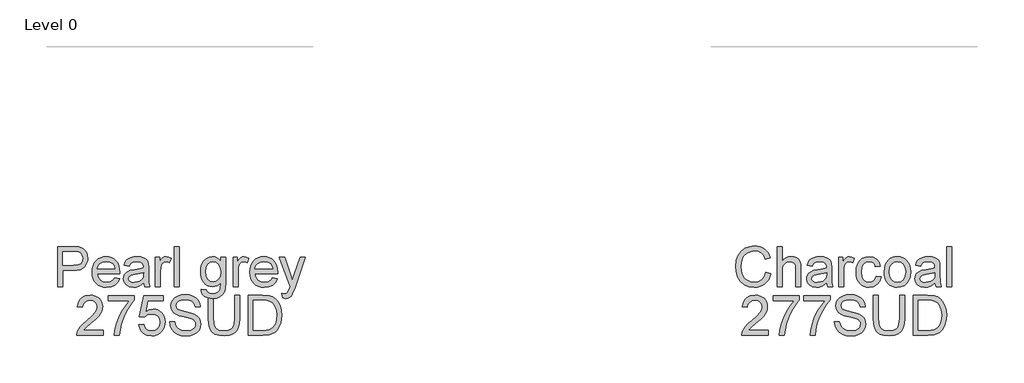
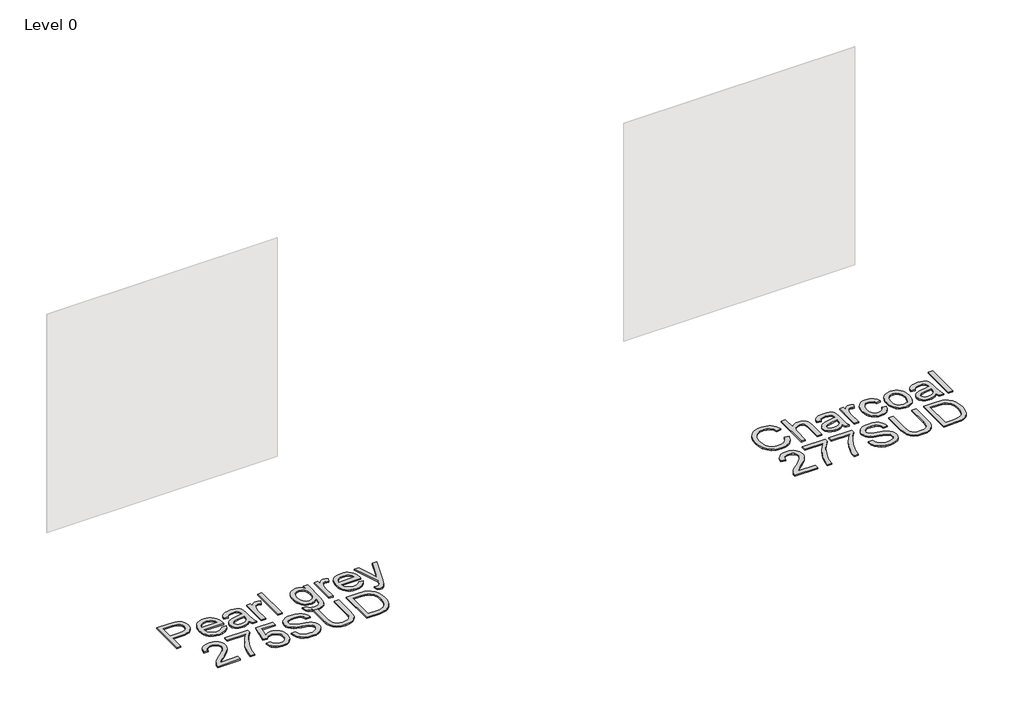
# One storey, part 5 of 37: 2 proxies.
"""IFC4 building model written with IfcOpenShell, lengths in millimetres."""

from ifc_helpers import new_model, si_unit, origin, origin_with_axes, place, context, project, spatial, polyline, outline, extrude, element, save

model = new_model("IFC4")

# Units and contexts
model_context = context("Model", 3, world=origin())
ifc_project = project(units=[si_unit("LENGTHUNIT", "METRE", prefix="MILLI")], contexts=[model_context])

# Site, building, storey
site = spatial("IfcSite", under=ifc_project)
building = spatial("IfcBuilding", under=site)
storey = spatial("IfcBuildingStorey", under=building, Name="Level 0", Elevation=0.0)

# Proxies
placement = place(None, origin())
element("IfcBuildingElementProxy", 1, Name="300mm Arial", ObjectType="300mm Arial", at=placement, inside=storey, context=model_context, shape_type="SweptSolid", body=[
    extrude(outline(polyline([(-10366.5370715, -36932.860494), (-10366.5370715, -36631.4915635), (-10254.8480978, -36631.4915635), (-10209.8193416, -36634.3610431), (-10189.7421817, -36639.7229232), (-10173.215083, -36648.4509235), (-10159.9069519, -36660.9405172), (-10149.4866943, -36677.5871775), (-10142.7544538, -36697.222879), (-10140.5103737, -36718.6795964), (-10142.0255876, -36737.1794622), (-10146.5712295, -36754.198603), (-10154.1472994, -36769.7370188), (-10164.7537971, -36783.7947095), (-10179.3150264, -36795.4473717), (-10198.7552905, -36803.7707019), (-10223.0745897, -36808.7647), (-10252.2729238, -36810.429366), (-10328.8659552, -36810.429366), (-10328.8659552, -36932.860494), (-10366.5370715, -36932.860494)]), holes=[polyline([(-10328.8659552, -36772.7582497), (-10250.0656318, -36772.7582497), (-10216.6619467, -36769.3001589), (-10194.589027, -36758.9258867), (-10182.2833742, -36742.2792264), (-10178.18149, -36720.0039716), (-10180.6003141, -36703.0813998), (-10187.8567864, -36688.8075784), (-10199.0495961, -36678.0654241), (-10213.2774323, -36671.7378538), (-10250.9485486, -36669.1626798), (-10328.8659552, -36669.1626798), (-10328.8659552, -36772.7582497)])]), origin_with_axes(), (0.0, 0.0, 1.0), 10.0),
    extrude(outline(polyline([(-9938.4695819, -36866.9360404), (-9901.5342296, -36871.64493), (-9914.8423608, -36899.4752029), (-9936.0783489, -36920.2789297), (-9964.7639475, -36933.2467701), (-10000.4209099, -36937.5693835), (-10023.7952122, -36935.7046817), (-10044.6219316, -36930.1105761), (-10062.9010683, -36920.7870668), (-10078.6326221, -36907.7341537), (-10091.2831642, -36891.3151204), (-10100.3192657, -36871.8932503), (-10105.7409266, -36849.4685435), (-10107.5481469, -36824.0409998), (-10105.7225325, -36797.7512327), (-10100.2456893, -36774.5792656), (-10091.1176173, -36754.5250983), (-10078.3383165, -36737.5887309), (-10062.6481494, -36724.133447), (-10044.7874785, -36714.5225298), (-10024.7563039, -36708.7559796), (-10002.5546255, -36706.8337961), (-9981.0680177, -36708.751381), (-9961.6369506, -36714.5041357), (-9944.2614241, -36724.0920602), (-9928.9414382, -36737.5151545), (-9916.4357497, -36754.4147337), (-9907.503115, -36774.4321128), (-9902.1435342, -36797.5672917), (-9900.3570072, -36823.8202706), (-9900.5777364, -36833.9738137), (-10069.8770306, -36833.9738137), (-10063.3563222, -36862.1719686), (-10048.2087811, -36882.902119), (-10026.3473935, -36895.6492302), (-9999.6851459, -36899.8982672), (-9979.6355772, -36897.9300985), (-9962.7497936, -36892.0255925), (-9949.0277952, -36881.8168672), (-9938.4695819, -36866.9360404)]), holes=[polyline([(-10069.8770306, -36796.3026974), (-9938.0281235, -36796.3026974), (-9943.1232892, -36776.4002814), (-9953.1112853, -36762.1632482), (-9975.0738404, -36748.9194964), (-10002.7017783, -36744.5049125), (-10028.094833, -36748.0273826), (-10049.0916979, -36758.5947929), (-10063.687416, -36775.0667092), (-10069.8770306, -36796.3026974)])]), origin_with_axes(), (0.0, 0.0, 1.0), 10.0),
    extrude(outline(polyline([(-9721.4192048, -36904.6071568), (-9739.4178314, -36920.0398064), (-9757.9498869, -36930.1381672), (-9777.4384356, -36935.7115794), (-9798.3065417, -36937.5693835), (-9829.7880435, -36933.0996173), (-9853.0105944, -36919.6903186), (-9867.3304011, -36899.3280501), (-9872.10367, -36873.9993748), (-9870.3010482, -36858.3827841), (-9864.8931829, -36844.2009331), (-9856.5514586, -36832.0608273), (-9845.9472601, -36822.5694718), (-9819.5701211, -36810.2086368), (-9786.9757763, -36804.5432541), (-9748.4585314, -36798.5835657), (-9721.639934, -36791.5938078), (-9721.4192048, -36783.2060983), (-9724.0127728, -36766.3938912), (-9731.793477, -36755.3942195), (-9749.1942954, -36747.2272392), (-9773.4377189, -36744.5049125), (-9795.8785206, -36746.3167313), (-9811.5502936, -36751.7521878), (-9822.2372655, -36761.8045633), (-9829.7236641, -36777.4671392), (-9867.3947804, -36772.7582497), (-9860.855678, -36752.156858), (-9851.0976081, -36735.9700502), (-9837.2100627, -36723.590821), (-9818.2825341, -36714.4121652), (-9795.1335595, -36708.7283884), (-9768.5816765, -36706.8337961), (-9743.1150454, -36708.5076592), (-9722.9275209, -36713.5292485), (-9707.7064034, -36721.0800264), (-9697.1389931, -36730.3414556), (-9690.1308411, -36741.7917827), (-9685.5874984, -36755.9092543), (-9683.7480885, -36788.8714811), (-9683.7480885, -36835.7396473), (-9681.8351021, -36901.1858542), (-9674.3303094, -36932.860494), (-9712.0014257, -36932.860494), (-9721.4192048, -36904.6071568)]), holes=[polyline([(-9721.4192048, -36829.2649241), (-9782.1933104, -36840.8164188), (-9814.6037141, -36846.9232599), (-9829.2822057, -36856.8560738), (-9834.4325537, -36871.3506244), (-9831.6274535, -36882.5526311), (-9823.2121528, -36891.7312869), (-9809.3705928, -36897.8565221), (-9790.2867143, -36899.8982672), (-9770.0532045, -36897.64499), (-9752.1741396, -36890.8851583), (-9737.6795889, -36880.9247533), (-9727.5996223, -36869.069756), (-9723.129856, -36856.8560738), (-9721.639934, -36839.933502), (-9721.4192048, -36829.2649241)])]), origin_with_axes(), (0.0, 0.0, 1.0), 10.0),
    extrude(outline(polyline([(-9631.9503035, -36932.860494), (-9631.9503035, -36711.5426857), (-9598.9880768, -36711.5426857), (-9598.9880768, -36744.2841833), (-9586.8111827, -36725.3014723), (-9575.5907819, -36714.1178596), (-9564.3335928, -36708.654812), (-9552.0463342, -36706.8337961), (-9533.2843524, -36709.7400639), (-9514.2280651, -36718.4588672), (-9526.8096293, -36752.2304343), (-9540.0533811, -36746.4362929), (-9553.297133, -36744.5049125), (-9564.545125, -36746.3627165), (-9574.5975005, -36751.9361288), (-9582.7184955, -36760.8020848), (-9588.1723461, -36772.5375205), (-9592.7524769, -36793.5803706), (-9594.2791872, -36816.5362071), (-9594.2791872, -36932.860494), (-9631.9503035, -36932.860494)])), origin_with_axes(), (0.0, 0.0, 1.0), 10.0),
    extrude(outline(polyline([(-9490.6836174, -36932.860494), (-9490.6836174, -36631.4915635), (-9453.0125011, -36631.4915635), (-9453.0125011, -36932.860494), (-9490.6836174, -36932.860494)])), origin_with_axes(), (0.0, 0.0, 1.0), 10.0),
    extrude(outline(polyline([(-9288.2013672, -36951.6960521), (-9250.5302509, -36956.4049417), (-9246.3731844, -36968.1771655), (-9238.3165687, -36976.2705694), (-9222.4792488, -36982.5613515), (-9201.7490984, -36984.6582789), (-9179.6393905, -36982.28544), (-9163.1950653, -36975.1669234), (-9151.7907234, -36963.7625816), (-9144.8009655, -36948.532267), (-9142.2257916, -36904.6071568), (-9154.7613705, -36916.9679918), (-9168.7500834, -36925.7971597), (-9184.1919302, -36931.0946604), (-9201.0869108, -36932.860494), (-9221.7411855, -36930.8049533), (-9239.9260524, -36924.6383314), (-9255.6415114, -36914.3606281), (-9268.8875625, -36899.9718436), (-9279.3974912, -36882.708981), (-9286.9045832, -36863.8090435), (-9291.4088384, -36843.2720311), (-9292.9102568, -36821.0979438), (-9290.2155212, -36790.6832999), (-9282.1313143, -36762.7150712), (-9268.9427448, -36739.0142737), (-9250.9349211, -36721.4019232), (-9228.7240457, -36710.4758279), (-9202.9263208, -36706.8337961), (-9185.3093717, -36708.8939353), (-9169.3203005, -36715.0743528), (-9154.9591071, -36725.3750487), (-9142.2257916, -36739.7960229), (-9142.2257916, -36711.5426857), (-9104.5546752, -36711.5426857), (-9104.5546752, -36902.620594), (-9107.1298492, -36946.7388422), (-9114.8553711, -36975.7923228), (-9128.1635023, -36995.0601423), (-9147.4865041, -37009.8214074), (-9172.4013122, -37019.2023982), (-9202.4848624, -37022.3293952), (-9237.5348195, -37017.9240083), (-9265.1351661, -37004.7078476), (-9275.5301318, -36994.7865301), (-9282.8394872, -36982.644125), (-9287.0632323, -36968.2806323), (-9288.2013672, -36951.6960521)]), holes=[polyline([(-9255.2391405, -36818.5227699), (-9251.2200297, -36853.0760863), (-9239.1626973, -36876.8320661), (-9221.035312, -36890.6000498), (-9198.8060424, -36895.1893777), (-9176.7423197, -36890.6276409), (-9158.5229639, -36876.9424307), (-9146.3000846, -36853.4899535), (-9142.2257916, -36819.6264159), (-9146.4196463, -36786.9676917), (-9159.0012105, -36763.4508352), (-9177.4872808, -36749.2413931), (-9199.3946536, -36744.5049125), (-9220.9065533, -36749.1678167), (-9238.9419681, -36763.1565296), (-9251.1648474, -36786.3238983), (-9255.2391405, -36818.5227699)])]), origin_with_axes(), (0.0, 0.0, 1.0), 10.0),
    extrude(outline(polyline([(-9048.0480008, -36932.860494), (-9048.0480008, -36711.5426857), (-9015.085774, -36711.5426857), (-9015.085774, -36744.2841833), (-9002.90888, -36725.3014723), (-8991.6884791, -36714.1178596), (-8980.4312901, -36708.654812), (-8968.1440314, -36706.8337961), (-8949.3820497, -36709.7400639), (-8930.3257623, -36718.4588672), (-8942.9073266, -36752.2304343), (-8956.1510784, -36746.4362929), (-8969.3948302, -36744.5049125), (-8980.6428222, -36746.3627165), (-8990.6951977, -36751.9361288), (-8998.8161928, -36760.8020848), (-9004.2700434, -36772.5375205), (-9008.8501742, -36793.5803706), (-9010.3768845, -36816.5362071), (-9010.3768845, -36932.860494), (-9048.0480008, -36932.860494)])), origin_with_axes(), (0.0, 0.0, 1.0), 10.0),
    extrude(outline(polyline([(-8751.8294183, -36866.9360404), (-8714.894066, -36871.64493), (-8728.2021971, -36899.4752029), (-8749.4381853, -36920.2789297), (-8778.1237839, -36933.2467701), (-8813.7807463, -36937.5693835), (-8837.1550485, -36935.7046817), (-8857.981768, -36930.1105761), (-8876.2609046, -36920.7870668), (-8891.9924584, -36907.7341537), (-8904.6430005, -36891.3151204), (-8913.679102, -36871.8932503), (-8919.100763, -36849.4685435), (-8920.9079833, -36824.0409998), (-8919.0823689, -36797.7512327), (-8913.6055256, -36774.5792656), (-8904.4774536, -36754.5250983), (-8891.6981528, -36737.5887309), (-8876.0079857, -36724.133447), (-8858.1473149, -36714.5225298), (-8838.1161402, -36708.7559796), (-8815.9144618, -36706.8337961), (-8794.427854, -36708.751381), (-8774.9967869, -36714.5041357), (-8757.6212604, -36724.0920602), (-8742.3012746, -36737.5151545), (-8729.795586, -36754.4147337), (-8720.8629513, -36774.4321128), (-8715.5033705, -36797.5672917), (-8713.7168436, -36823.8202706), (-8713.9375728, -36833.9738137), (-8883.2368669, -36833.9738137), (-8876.7161586, -36862.1719686), (-8861.5686174, -36882.902119), (-8839.7072299, -36895.6492302), (-8813.0449823, -36899.8982672), (-8792.9954135, -36897.9300985), (-8776.10963, -36892.0255925), (-8762.3876315, -36881.8168672), (-8751.8294183, -36866.9360404)]), holes=[polyline([(-8883.2368669, -36796.3026974), (-8751.3879599, -36796.3026974), (-8756.4831255, -36776.4002814), (-8766.4711217, -36762.1632482), (-8788.4336768, -36748.9194964), (-8816.0616146, -36744.5049125), (-8841.4546693, -36748.0273826), (-8862.4515342, -36758.5947929), (-8877.0472524, -36775.0667092), (-8883.2368669, -36796.3026974)])]), origin_with_axes(), (0.0, 0.0, 1.0), 10.0),
    extrude(outline(polyline([(-8676.0457273, -37017.6205057), (-8680.7546168, -36981.3473409), (-8661.6247531, -36984.6582789), (-8643.7456881, -36980.5012124), (-8632.7828046, -36968.9129295), (-8622.4821088, -36941.1746271), (-8619.5390528, -36932.0511536), (-8699.590175, -36711.5426857), (-8659.8589195, -36711.5426857), (-8617.4053372, -36834.4152721), (-8602.616481, -36883.5643066), (-8587.8276248, -36840.1542312), (-8544.1968202, -36711.5426857), (-8504.7598703, -36711.5426857), (-8581.7943601, -36938.1579947), (-8601.8071406, -36987.3070293), (-8612.0526542, -37002.9971964), (-8623.6593312, -37013.8681093), (-8637.1422063, -37020.2140737), (-8653.0163144, -37022.3293952), (-8676.0457273, -37017.6205057)])), origin_with_axes(), (0.0, 0.0, 1.0), 10.0),
    extrude(outline(polyline([(-10025.14258, -37261.1138312), (-10025.14258, -37298.7849475), (-10222.9159406, -37298.7849475), (-10218.8692386, -37272.8124787), (-10209.5802183, -37252.5145896), (-10195.9869785, -37232.8237058), (-10176.3236859, -37212.213117), (-10148.8245068, -37189.156113), (-10108.1735463, -37153.0484951), (-10083.78297, -37126.3954446), (-10071.5876819, -37104.7639833), (-10067.5225858, -37083.7211331), (-10071.3577556, -37064.8579838), (-10082.863265, -37049.1770138), (-10100.5491919, -37038.6096035), (-10122.9256143, -37035.0871334), (-10146.4240767, -37038.52683), (-10164.6802207, -37048.84592), (-10176.4616416, -37065.2350629), (-10180.5359347, -37086.8849183), (-10218.207051, -37082.1760288), (-10209.0743805, -37045.7373171), (-10200.5280219, -37031.2013798), (-10189.3283144, -37019.1210548), (-10175.7327754, -37009.6251008), (-10159.9989224, -37002.8422765), (-10122.1162739, -36997.4160171), (-10101.9264502, -36998.9243332), (-10083.957714, -37003.4492818), (-10068.2100653, -37010.9908627), (-10054.6835042, -37021.549076), (-10043.819489, -37034.3421723), (-10036.0594782, -37048.5884026), (-10031.4034717, -37064.2877667), (-10029.8514695, -37081.4402648), (-10031.5253326, -37099.4572855), (-10036.5469218, -37117.1616065), (-10045.4588632, -37135.1694302), (-10058.8037825, -37154.0969588), (-10080.0765589, -37176.6941104), (-10112.7720712, -37205.7108027), (-10156.1085703, -37241.9471793), (-10173.1047184, -37261.1138312), (-10025.14258, -37261.1138312)])), origin_with_axes(), (0.0, 0.0, 1.0), 10.0),
    extrude(outline(polyline([(-9987.4714637, -37039.7960229), (-9987.4714637, -37002.1249066), (-9789.6981031, -37002.1249066), (-9789.6981031, -37032.5855358), (-9817.8870609, -37068.2608923), (-9845.8001073, -37113.6299393), (-9870.4206099, -37164.5540045), (-9888.7319362, -37216.8944154), (-9897.7082568, -37256.0554538), (-9902.711452, -37298.7849475), (-9940.3825683, -37298.7849475), (-9936.3082752, -37259.9550029), (-9925.4097711, -37213.8042066), (-9907.9813616, -37164.8850983), (-9884.3173522, -37117.7502177), (-9856.6894144, -37075.1402856), (-9827.3692194, -37039.7960229), (-9987.4714637, -37039.7960229)])), origin_with_axes(), (0.0, 0.0, 1.0), 10.0),
    extrude(outline(polyline([(-9756.7358763, -37218.7338254), (-9719.06476, -37214.0249358), (-9712.1485785, -37236.6404815), (-9700.082049, -37252.8364863), (-9682.920354, -37262.5761621), (-9660.7186756, -37265.8227207), (-9633.7161371, -37261.3069693), (-9613.4826274, -37247.7597148), (-9600.8458808, -37226.7444558), (-9596.633632, -37199.8246908), (-9600.5791664, -37174.4776213), (-9612.4157696, -37155.0902402), (-9632.2354121, -37142.7845875), (-9660.1300644, -37138.6827032), (-9678.4046025, -37140.3197781), (-9693.2026557, -37145.2310027), (-9714.3558705, -37162.2271509), (-9752.0269868, -37157.5182614), (-9719.06476, -37002.1249066), (-9573.0891843, -37002.1249066), (-9573.0891843, -37039.7960229), (-9688.6041308, -37039.7960229), (-9704.7173622, -37122.790201), (-9677.8067942, -37106.4562404), (-9649.6086393, -37101.0115869), (-9631.2628241, -37102.6992456), (-9614.4115294, -37107.7622215), (-9599.0547554, -37116.2005148), (-9585.1925019, -37128.0141254), (-9573.716883, -37142.4810848), (-9565.5200123, -37158.8794248), (-9560.6018898, -37177.2091452), (-9558.9625157, -37197.470246), (-9564.8670217, -37235.1413624), (-9572.2476542, -37251.9351754), (-9582.5805398, -37267.3678251), (-9598.2339187, -37283.1729553), (-9616.4992597, -37294.4623341), (-9637.376563, -37301.2359613), (-9660.8658284, -37303.4938371), (-9697.86556, -37297.6904986), (-9713.5442308, -37290.4363255), (-9727.3421049, -37280.2804832), (-9738.8223224, -37267.7288093), (-9747.5480235, -37253.2871418), (-9756.7358763, -37218.7338254)])), origin_with_axes(), (0.0, 0.0, 1.0), 10.0),
    extrude(outline(polyline([(-9526.0002889, -37195.1893777), (-9488.3291726, -37195.1893777), (-9484.0065592, -37216.0942721), (-9476.1890668, -37232.8972822), (-9463.9937786, -37246.2330045), (-9446.537778, -37256.7360355), (-9425.2006222, -37263.5510494), (-9401.361869, -37265.8227207), (-9380.3742011, -37264.1028724), (-9361.9984955, -37258.9433274), (-9347.1084717, -37250.7763471), (-9336.5778496, -37240.0341929), (-9330.3146586, -37227.700949), (-9328.2269283, -37214.7606998), (-9329.7904268, -37202.1515444), (-9334.4809222, -37191.2530403), (-9344.0090659, -37181.9548229), (-9360.0855091, -37174.1465276), (-9414.9367146, -37159.7623415), (-9450.9431649, -37150.2433949), (-9473.9817748, -37141.1843008), (-9492.7345595, -37128.510766), (-9506.0242966, -37113.1516928), (-9513.9429565, -37095.4381747), (-9516.5825098, -37075.7013056), (-9513.3175571, -37053.637583), (-9503.522699, -37033.0637824), (-9487.4554529, -37015.6261758), (-9465.3733361, -37002.9710352), (-9438.8674384, -36995.2731044), (-9409.5288492, -36992.7071275), (-9377.7438449, -36995.3926661), (-9349.931966, -37003.4492818), (-9327.0864941, -37016.7114277), (-9310.2007105, -37035.013557), (-9299.5137386, -37057.2152354), (-9295.2647015, -37082.1760288), (-9332.9358179, -37082.1760288), (-9339.8519994, -37059.6984389), (-9354.2729736, -37043.4748429), (-9376.8057458, -37033.6523936), (-9408.0573213, -37030.3782438), (-9440.0446607, -37033.6156054), (-9461.9888218, -37043.3276901), (-9474.6807506, -37057.6199056), (-9478.9113935, -37074.5976597), (-9475.9131553, -37089.0738162), (-9466.9184405, -37100.7172813), (-9445.6548612, -37111.1283418), (-9405.4085709, -37121.7601314), (-9363.8746936, -37131.8584922), (-9338.7483534, -37140.669266), (-9317.2732419, -37154.3360821), (-9302.2912477, -37171.2034716), (-9293.4896709, -37191.0874934), (-9290.555812, -37213.8042066), (-9293.9311293, -37237.0267576), (-9304.0570812, -37258.869751), (-9320.5198005, -37277.668521), (-9342.9054199, -37291.7584014), (-9369.8251849, -37300.5599781), (-9399.890341, -37303.4938371), (-9436.7981021, -37300.3300519), (-9467.1759579, -37290.8386964), (-9491.3733961, -37274.9829824), (-9509.7399047, -37252.7261217), (-9521.5305227, -37225.6132187), (-9526.0002889, -37195.1893777)])), origin_with_axes(), (0.0, 0.0, 1.0), 10.0),
    extrude(outline(polyline([(-9036.2757769, -36997.4160171), (-8998.6046606, -36997.4160171), (-8998.6046606, -37171.277048), (-9001.1614405, -37211.9923878), (-9008.8317801, -37243.3451308), (-9023.1607838, -37267.533372), (-9045.693556, -37286.7552063), (-9076.485279, -37299.3091794), (-9115.5911351, -37303.4938371), (-9153.8416655, -37299.8518053), (-9184.4218564, -37288.92571), (-9207.3409047, -37271.0926303), (-9222.6080075, -37246.7296452), (-9231.188855, -37214.052527), (-9234.0491375, -37171.277048), (-9234.0491375, -36997.4160171), (-9196.3780212, -36997.4160171), (-9196.3780212, -37169.9526728), (-9194.5202172, -37203.8070134), (-9188.9468049, -37227.3790523), (-9178.8484442, -37243.7038158), (-9163.4157945, -37255.8163305), (-9143.2926493, -37263.3211232), (-9119.1228023, -37265.8227207), (-9080.8078925, -37260.8747079), (-9066.4650932, -37254.6896919), (-9055.3320643, -37246.0306694), (-9046.9949386, -37233.8537754), (-9041.0398488, -37217.1151446), (-9036.2757769, -37169.9526728), (-9036.2757769, -36997.4160171)])), origin_with_axes(), (0.0, 0.0, 1.0), 10.0),
    extrude(outline(polyline([(-8932.6802071, -37298.7849475), (-8932.6802071, -36997.4160171), (-8828.7167553, -36997.4160171), (-8774.9324076, -37001.7570246), (-8750.9097133, -37010.12634), (-8730.6394153, -37023.3149095), (-8709.7989003, -37046.270746), (-8694.9548618, -37074.8183889), (-8686.0705116, -37108.406015), (-8683.1090616, -37146.4818015), (-8685.1140184, -37178.8278259), (-8691.1288891, -37207.2926953), (-8700.2891507, -37231.5269217), (-8711.7302808, -37251.1810173), (-8724.9004562, -37266.6964405), (-8739.247854, -37278.5146496), (-8755.7197704, -37287.2794381), (-8775.2635014, -37293.6345996), (-8823.7135601, -37298.7849475), (-8932.6802071, -37298.7849475)]), holes=[polyline([(-8895.0090908, -37261.1138312), (-8828.3488733, -37261.1138312), (-8800.7761177, -37259.7526678), (-8779.8620263, -37255.6691777), (-8764.0798887, -37249.1024841), (-8751.9029947, -37240.2917103), (-8738.8155927, -37223.9853408), (-8728.9839464, -37202.8781114), (-8722.83112, -37176.8780514), (-8720.7801779, -37145.8931903), (-8724.7992887, -37104.8375597), (-8736.8566211, -37074.5240833), (-8754.6713067, -37053.7019623), (-8775.9624772, -37041.1203981), (-8797.6307267, -37036.5954496), (-8829.3789429, -37035.0871334), (-8895.0090908, -37035.0871334), (-8895.0090908, -37261.1138312)])]), origin_with_axes(), (0.0, 0.0, 1.0), 10.0),
])
element("IfcBuildingElementProxy", 2, Name="300mm Arial", ObjectType="300mm Arial", at=placement, inside=storey, context=model_context, shape_type="SweptSolid", body=[
    extrude(outline(polyline([(-5041.6236934, -36825.733257), (-5003.9525771, -36835.4453417), (-5011.406786, -36858.872527), (-5021.3350013, -36879.3428607), (-5033.7372231, -36896.856343), (-5048.6134513, -36911.4129737), (-5065.6279935, -36922.856403), (-5084.4451576, -36931.0302811), (-5105.0649434, -36935.9346079), (-5127.487351, -36937.5693835), (-5171.182535, -36932.6213707), (-5205.8830042, -36917.7773322), (-5232.4808725, -36893.5523028), (-5251.8682536, -36860.4613173), (-5263.7048568, -36821.5577963), (-5267.6503912, -36779.8951604), (-5263.189822, -36735.9516561), (-5249.8081144, -36698.0046283), (-5228.2042443, -36667.2588905), (-5199.0771873, -36644.9192564), (-5164.5330679, -36631.3168196), (-5126.6780106, -36626.782674), (-5085.3740596, -36632.6503918), (-5067.4053234, -36639.9850391), (-5051.2254134, -36650.2535453), (-5037.1010441, -36663.1845974), (-5025.2989298, -36678.5068825), (-5008.6614666, -36716.3251516), (-5046.3325829, -36725.3014723), (-5059.3923937, -36697.8298843), (-5077.2346705, -36678.9851291), (-5100.0801424, -36668.086625), (-5128.1495386, -36664.4537903), (-5160.5047601, -36668.4820981), (-5187.0842343, -36680.5670217), (-5207.2533646, -36699.439368), (-5220.3775548, -36723.8299443), (-5227.5788449, -36751.4026999), (-5229.9792749, -36779.821584), (-5227.1373865, -36814.6232207), (-5218.6117212, -36844.7159679), (-5204.0803824, -36868.9501944), (-5183.2214733, -36886.1762688), (-5158.2146947, -36896.4677676), (-5131.2397474, -36899.8982672), (-5099.7950338, -36895.2261659), (-5073.5926387, -36881.2098619), (-5053.8097844, -36857.996508), (-5041.6236934, -36825.733257)])), origin_with_axes(), (0.0, 0.0, 1.0), 10.0),
    extrude(outline(polyline([(-4956.8636817, -36932.860494), (-4956.8636817, -36631.4915635), (-4919.1925654, -36631.4915635), (-4919.1925654, -36742.2976205), (-4905.3556038, -36726.7821973), (-4889.817188, -36715.6997522), (-4872.5773181, -36709.0502852), (-4853.6359938, -36706.8337961), (-4830.8824924, -36709.2526203), (-4811.3295644, -36716.5090926), (-4795.9337029, -36728.0329961), (-4785.6514011, -36743.2541137), (-4779.8572597, -36764.1682051), (-4777.9258792, -36792.7710302), (-4777.9258792, -36932.860494), (-4815.5969955, -36932.860494), (-4815.5969955, -36796.6705794), (-4818.5952338, -36773.0893435), (-4827.5899486, -36756.9393239), (-4842.0844992, -36747.6135153), (-4861.5822449, -36744.5049125), (-4877.5023383, -36746.6018398), (-4892.4475443, -36752.8926219), (-4904.8267735, -36762.7702535), (-4913.048936, -36775.6277292), (-4917.656658, -36792.7158479), (-4919.1925654, -36815.2854083), (-4919.1925654, -36932.860494), (-4956.8636817, -36932.860494)])), origin_with_axes(), (0.0, 0.0, 1.0), 10.0),
    extrude(outline(polyline([(-4584.8614081, -36904.6071568), (-4602.8600348, -36920.0398064), (-4621.3920903, -36930.1381672), (-4640.880639, -36935.7115794), (-4661.7487451, -36937.5693835), (-4693.2302469, -36933.0996173), (-4716.4527978, -36919.6903186), (-4730.7726045, -36899.3280501), (-4735.5458734, -36873.9993748), (-4733.7432516, -36858.3827841), (-4728.3353863, -36844.2009331), (-4719.993662, -36832.0608273), (-4709.3894635, -36822.5694718), (-4683.0123245, -36810.2086368), (-4650.4179797, -36804.5432541), (-4611.9007348, -36798.5835657), (-4585.0821373, -36791.5938078), (-4584.8614081, -36783.2060983), (-4587.4549762, -36766.3938912), (-4595.2356804, -36755.3942195), (-4612.6364988, -36747.2272392), (-4636.8799223, -36744.5049125), (-4659.320724, -36746.3167313), (-4674.992497, -36751.7521878), (-4685.6794689, -36761.8045633), (-4693.1658675, -36777.4671392), (-4730.8369838, -36772.7582497), (-4724.2978814, -36752.156858), (-4714.5398114, -36735.9700502), (-4700.6522661, -36723.590821), (-4681.7247375, -36714.4121652), (-4658.5757629, -36708.7283884), (-4632.0238799, -36706.8337961), (-4606.5572488, -36708.5076592), (-4586.3697243, -36713.5292485), (-4571.1486068, -36721.0800264), (-4560.5811965, -36730.3414556), (-4553.5730445, -36741.7917827), (-4549.0297018, -36755.9092543), (-4547.1902918, -36788.8714811), (-4547.1902918, -36835.7396473), (-4545.2773055, -36901.1858542), (-4537.7725128, -36932.860494), (-4575.4436291, -36932.860494), (-4584.8614081, -36904.6071568)]), holes=[polyline([(-4584.8614081, -36829.2649241), (-4645.6355138, -36840.8164188), (-4678.0459175, -36846.9232599), (-4692.7244091, -36856.8560738), (-4697.8747571, -36871.3506244), (-4695.0696569, -36882.5526311), (-4686.6543562, -36891.7312869), (-4672.8127961, -36897.8565221), (-4653.7289176, -36899.8982672), (-4633.4954079, -36897.64499), (-4615.6163429, -36890.8851583), (-4601.1217923, -36880.9247533), (-4591.0418257, -36869.069756), (-4586.5720594, -36856.8560738), (-4585.0821373, -36839.933502), (-4584.8614081, -36829.2649241)])]), origin_with_axes(), (0.0, 0.0, 1.0), 10.0),
    extrude(outline(polyline([(-4495.3925069, -36932.860494), (-4495.3925069, -36711.5426857), (-4462.4302802, -36711.5426857), (-4462.4302802, -36744.2841833), (-4450.2533861, -36725.3014723), (-4439.0329853, -36714.1178596), (-4427.7757962, -36708.654812), (-4415.4885376, -36706.8337961), (-4396.7265558, -36709.7400639), (-4377.6702685, -36718.4588672), (-4390.2518327, -36752.2304343), (-4403.4955845, -36746.4362929), (-4416.7393364, -36744.5049125), (-4427.9873284, -36746.3627165), (-4438.0397039, -36751.9361288), (-4446.1606989, -36760.8020848), (-4451.6145495, -36772.5375205), (-4456.1946803, -36793.5803706), (-4457.7213906, -36816.5362071), (-4457.7213906, -36932.860494), (-4495.3925069, -36932.860494)])), origin_with_axes(), (0.0, 0.0, 1.0), 10.0),
    extrude(outline(polyline([(-4212.8591346, -36852.8093718), (-4175.1880183, -36857.5182614), (-4185.6910493, -36891.0231141), (-4205.4279183, -36916.3425924), (-4232.5408214, -36932.2626857), (-4265.1719543, -36937.5693835), (-4286.2998772, -36935.7184772), (-4305.2435007, -36930.1657584), (-4322.0028248, -36920.9112269), (-4336.5778496, -36907.9548829), (-4348.3753653, -36891.5404481), (-4356.8021623, -36871.9116444), (-4361.8582405, -36849.0684718), (-4363.5435998, -36823.0109302), (-4360.6649232, -36789.4876834), (-4352.0288934, -36760.4342028), (-4337.4975546, -36736.9725286), (-4316.9329511, -36720.2247008), (-4292.3308426, -36710.1815223), (-4265.6869891, -36706.8337961), (-4233.8559995, -36711.4323211), (-4208.4077625, -36725.2278959), (-4190.1516185, -36747.4847566), (-4179.8969079, -36777.4671392), (-4217.5680242, -36782.1760288), (-4224.4014322, -36765.7409006), (-4235.0424189, -36753.9594797), (-4248.9023731, -36746.8685543), (-4265.3926835, -36744.5049125), (-4289.7372746, -36749.1586197), (-4309.0602764, -36763.1197414), (-4321.6694317, -36787.1424357), (-4325.8724835, -36821.9808606), (-4321.7614022, -36857.2883351), (-4309.4281584, -36881.3938029), (-4290.4546445, -36895.2721511), (-4266.4227531, -36899.8982672), (-4246.9158103, -36897.0103936), (-4230.9221406, -36888.3467726), (-4219.2878725, -36873.6866751), (-4212.8591346, -36852.8093718)])), origin_with_axes(), (0.0, 0.0, 1.0), 10.0),
    extrude(outline(polyline([(-4151.6435706, -36822.2015898), (-4149.6064241, -36793.5389839), (-4143.4949844, -36768.8403064), (-4133.3092517, -36748.1055575), (-4119.0492259, -36731.334737), (-4104.692631, -36720.6155754), (-4088.8461141, -36712.9590314), (-4071.509675, -36708.3651049), (-4052.6833139, -36706.8337961), (-4031.9002805, -36708.698498), (-4013.1084083, -36714.2926036), (-3996.3076974, -36723.6161129), (-3981.4981479, -36736.669026), (-3969.4109251, -36753.0098843), (-3960.7771945, -36772.1972296), (-3955.5969561, -36794.2310619), (-3953.87021, -36819.1113811), (-3956.9236306, -36857.1687735), (-3966.0838923, -36886.1394806), (-3981.0842806, -36907.8353213), (-4001.6580812, -36924.0681143), (-4026.0946427, -36934.1940662), (-4052.6833139, -36937.5693835), (-4073.76985, -36935.7115794), (-4092.7364662, -36930.1381672), (-4109.5831623, -36920.8491468), (-4124.3099384, -36907.8445183), (-4136.2684025, -36891.3450108), (-4144.8101626, -36871.5713536), (-4149.9352186, -36848.5235466), (-4151.6435706, -36822.2015898)]), holes=[polyline([(-4113.9724543, -36822.1280134), (-4109.6130527, -36856.2214773), (-4096.5348478, -36880.5108861), (-4076.853161, -36895.0514219), (-4052.6833139, -36899.8982672), (-4028.6238314, -36895.0238308), (-4008.9789329, -36880.4005215), (-3995.900728, -36855.789216), (-3991.5413263, -36820.950791), (-3995.9283191, -36787.8506085), (-4009.0892975, -36763.8922936), (-4028.7617872, -36749.3517577), (-4052.6833139, -36744.5049125), (-4076.853161, -36749.3333636), (-4096.5348478, -36763.8187172), (-4109.6130527, -36788.0529436), (-4113.9724543, -36822.1280134)])]), origin_with_axes(), (0.0, 0.0, 1.0), 10.0),
    extrude(outline(polyline([(-3770.223518, -36904.6071568), (-3788.2221446, -36920.0398064), (-3806.7542001, -36930.1381672), (-3826.2427488, -36935.7115794), (-3847.110855, -36937.5693835), (-3878.5923568, -36933.0996173), (-3901.8149077, -36919.6903186), (-3916.1347144, -36899.3280501), (-3920.9079833, -36873.9993748), (-3919.1053615, -36858.3827841), (-3913.6974961, -36844.2009331), (-3905.3557719, -36832.0608273), (-3894.7515734, -36822.5694718), (-3868.3744343, -36810.2086368), (-3835.7800896, -36804.5432541), (-3797.2628447, -36798.5835657), (-3770.4442472, -36791.5938078), (-3770.223518, -36783.2060983), (-3772.8170861, -36766.3938912), (-3780.5977903, -36755.3942195), (-3797.9986087, -36747.2272392), (-3822.2420321, -36744.5049125), (-3844.6828339, -36746.3167313), (-3860.3546068, -36751.7521878), (-3871.0415788, -36761.8045633), (-3878.5279774, -36777.4671392), (-3916.1990937, -36772.7582497), (-3909.6599913, -36752.156858), (-3899.9019213, -36735.9700502), (-3886.014376, -36723.590821), (-3867.0868474, -36714.4121652), (-3843.9378728, -36708.7283884), (-3817.3859898, -36706.8337961), (-3791.9193587, -36708.5076592), (-3771.7318342, -36713.5292485), (-3756.5107167, -36721.0800264), (-3745.9433063, -36730.3414556), (-3738.9351543, -36741.7917827), (-3734.3918117, -36755.9092543), (-3732.5524017, -36788.8714811), (-3732.5524017, -36835.7396473), (-3730.6394153, -36901.1858542), (-3723.1346226, -36932.860494), (-3760.805739, -36932.860494), (-3770.223518, -36904.6071568)]), holes=[polyline([(-3770.223518, -36829.2649241), (-3830.9976236, -36840.8164188), (-3863.4080274, -36846.9232599), (-3878.086519, -36856.8560738), (-3883.2368669, -36871.3506244), (-3880.4317667, -36882.5526311), (-3872.0164661, -36891.7312869), (-3858.174906, -36897.8565221), (-3839.0910275, -36899.8982672), (-3818.8575178, -36897.64499), (-3800.9784528, -36890.8851583), (-3786.4839022, -36880.9247533), (-3776.4039355, -36869.069756), (-3771.9341693, -36856.8560738), (-3770.4442472, -36839.933502), (-3770.223518, -36829.2649241)])]), origin_with_axes(), (0.0, 0.0, 1.0), 10.0),
    extrude(outline(polyline([(-3680.7546168, -36932.860494), (-3680.7546168, -36631.4915635), (-3643.0835005, -36631.4915635), (-3643.0835005, -36932.860494), (-3680.7546168, -36932.860494)])), origin_with_axes(), (0.0, 0.0, 1.0), 10.0),
    extrude(outline(polyline([(-5025.14258, -37261.1138312), (-5025.14258, -37298.7849475), (-5222.9159406, -37298.7849475), (-5218.8692386, -37272.8124787), (-5209.5802183, -37252.5145896), (-5195.9869785, -37232.8237058), (-5176.3236859, -37212.213117), (-5148.8245068, -37189.156113), (-5108.1735463, -37153.0484951), (-5083.78297, -37126.3954446), (-5071.5876819, -37104.7639833), (-5067.5225858, -37083.7211331), (-5071.3577556, -37064.8579838), (-5082.863265, -37049.1770138), (-5100.5491919, -37038.6096035), (-5122.9256143, -37035.0871334), (-5146.4240767, -37038.52683), (-5164.6802207, -37048.84592), (-5176.4616416, -37065.2350629), (-5180.5359347, -37086.8849183), (-5218.207051, -37082.1760288), (-5209.0743805, -37045.7373171), (-5200.5280219, -37031.2013798), (-5189.3283144, -37019.1210548), (-5175.7327754, -37009.6251008), (-5159.9989224, -37002.8422765), (-5122.1162739, -36997.4160171), (-5101.9264502, -36998.9243332), (-5083.957714, -37003.4492818), (-5068.2100653, -37010.9908627), (-5054.6835042, -37021.549076), (-5043.819489, -37034.3421723), (-5036.0594782, -37048.5884026), (-5031.4034717, -37064.2877667), (-5029.8514695, -37081.4402648), (-5031.5253326, -37099.4572855), (-5036.5469218, -37117.1616065), (-5045.4588632, -37135.1694302), (-5058.8037825, -37154.0969588), (-5080.0765589, -37176.6941104), (-5112.7720712, -37205.7108027), (-5156.1085703, -37241.9471793), (-5173.1047184, -37261.1138312), (-5025.14258, -37261.1138312)])), origin_with_axes(), (0.0, 0.0, 1.0), 10.0),
    extrude(outline(polyline([(-4987.4714637, -37039.7960229), (-4987.4714637, -37002.1249066), (-4789.6981031, -37002.1249066), (-4789.6981031, -37032.5855358), (-4817.8870609, -37068.2608923), (-4845.8001073, -37113.6299393), (-4870.4206099, -37164.5540045), (-4888.7319362, -37216.8944154), (-4897.7082568, -37256.0554538), (-4902.711452, -37298.7849475), (-4940.3825683, -37298.7849475), (-4936.3082752, -37259.9550029), (-4925.4097711, -37213.8042066), (-4907.9813616, -37164.8850983), (-4884.3173522, -37117.7502177), (-4856.6894144, -37075.1402856), (-4827.3692194, -37039.7960229), (-4987.4714637, -37039.7960229)])), origin_with_axes(), (0.0, 0.0, 1.0), 10.0),
    extrude(outline(polyline([(-4756.7358763, -37039.7960229), (-4756.7358763, -37002.1249066), (-4558.9625157, -37002.1249066), (-4558.9625157, -37032.5855358), (-4587.1514736, -37068.2608923), (-4615.06452, -37113.6299393), (-4639.6850225, -37164.5540045), (-4657.9963488, -37216.8944154), (-4666.9726695, -37256.0554538), (-4671.9758646, -37298.7849475), (-4709.6469809, -37298.7849475), (-4705.5726878, -37259.9550029), (-4694.6741837, -37213.8042066), (-4677.2457742, -37164.8850983), (-4653.5817648, -37117.7502177), (-4625.953827, -37075.1402856), (-4596.633632, -37039.7960229), (-4756.7358763, -37039.7960229)])), origin_with_axes(), (0.0, 0.0, 1.0), 10.0),
    extrude(outline(polyline([(-4526.0002889, -37195.1893777), (-4488.3291726, -37195.1893777), (-4484.0065592, -37216.0942721), (-4476.1890668, -37232.8972822), (-4463.9937786, -37246.2330045), (-4446.537778, -37256.7360355), (-4425.2006222, -37263.5510494), (-4401.361869, -37265.8227207), (-4380.3742011, -37264.1028724), (-4361.9984955, -37258.9433274), (-4347.1084717, -37250.7763471), (-4336.5778496, -37240.0341929), (-4330.3146586, -37227.700949), (-4328.2269283, -37214.7606998), (-4329.7904268, -37202.1515444), (-4334.4809222, -37191.2530403), (-4344.0090659, -37181.9548229), (-4360.0855091, -37174.1465276), (-4414.9367146, -37159.7623415), (-4450.9431649, -37150.2433949), (-4473.9817748, -37141.1843008), (-4492.7345595, -37128.510766), (-4506.0242966, -37113.1516928), (-4513.9429565, -37095.4381747), (-4516.5825098, -37075.7013056), (-4513.3175571, -37053.637583), (-4503.522699, -37033.0637824), (-4487.4554529, -37015.6261758), (-4465.3733361, -37002.9710352), (-4438.8674384, -36995.2731044), (-4409.5288492, -36992.7071275), (-4377.7438449, -36995.3926661), (-4349.931966, -37003.4492818), (-4327.0864941, -37016.7114277), (-4310.2007105, -37035.013557), (-4299.5137386, -37057.2152354), (-4295.2647015, -37082.1760288), (-4332.9358179, -37082.1760288), (-4339.8519994, -37059.6984389), (-4354.2729736, -37043.4748429), (-4376.8057458, -37033.6523936), (-4408.0573213, -37030.3782438), (-4440.0446607, -37033.6156054), (-4461.9888218, -37043.3276901), (-4474.6807506, -37057.6199056), (-4478.9113935, -37074.5976597), (-4475.9131553, -37089.0738162), (-4466.9184405, -37100.7172813), (-4445.6548612, -37111.1283418), (-4405.4085709, -37121.7601314), (-4363.8746936, -37131.8584922), (-4338.7483534, -37140.669266), (-4317.2732419, -37154.3360821), (-4302.2912477, -37171.2034716), (-4293.4896709, -37191.0874934), (-4290.555812, -37213.8042066), (-4293.9311293, -37237.0267576), (-4304.0570812, -37258.869751), (-4320.5198005, -37277.668521), (-4342.9054199, -37291.7584014), (-4369.8251849, -37300.5599781), (-4399.890341, -37303.4938371), (-4436.7981021, -37300.3300519), (-4467.1759579, -37290.8386964), (-4491.3733961, -37274.9829824), (-4509.7399047, -37252.7261217), (-4521.5305227, -37225.6132187), (-4526.0002889, -37195.1893777)])), origin_with_axes(), (0.0, 0.0, 1.0), 10.0),
    extrude(outline(polyline([(-4036.2757769, -36997.4160171), (-3998.6046606, -36997.4160171), (-3998.6046606, -37171.277048), (-4001.1614405, -37211.9923878), (-4008.8317801, -37243.3451308), (-4023.1607838, -37267.533372), (-4045.693556, -37286.7552063), (-4076.485279, -37299.3091794), (-4115.5911351, -37303.4938371), (-4153.8416655, -37299.8518053), (-4184.4218564, -37288.92571), (-4207.3409047, -37271.0926303), (-4222.6080075, -37246.7296452), (-4231.188855, -37214.052527), (-4234.0491375, -37171.277048), (-4234.0491375, -36997.4160171), (-4196.3780212, -36997.4160171), (-4196.3780212, -37169.9526728), (-4194.5202172, -37203.8070134), (-4188.9468049, -37227.3790523), (-4178.8484442, -37243.7038158), (-4163.4157945, -37255.8163305), (-4143.2926493, -37263.3211232), (-4119.1228023, -37265.8227207), (-4080.8078925, -37260.8747079), (-4066.4650932, -37254.6896919), (-4055.3320643, -37246.0306694), (-4046.9949386, -37233.8537754), (-4041.0398488, -37217.1151446), (-4036.2757769, -37169.9526728), (-4036.2757769, -36997.4160171)])), origin_with_axes(), (0.0, 0.0, 1.0), 10.0),
    extrude(outline(polyline([(-3932.6802071, -37298.7849475), (-3932.6802071, -36997.4160171), (-3828.7167553, -36997.4160171), (-3774.9324076, -37001.7570246), (-3750.9097133, -37010.12634), (-3730.6394153, -37023.3149095), (-3709.7989003, -37046.270746), (-3694.9548618, -37074.8183889), (-3686.0705116, -37108.406015), (-3683.1090616, -37146.4818015), (-3685.1140184, -37178.8278259), (-3691.1288891, -37207.2926953), (-3700.2891507, -37231.5269217), (-3711.7302808, -37251.1810173), (-3724.9004562, -37266.6964405), (-3739.247854, -37278.5146496), (-3755.7197704, -37287.2794381), (-3775.2635014, -37293.6345996), (-3823.7135601, -37298.7849475), (-3932.6802071, -37298.7849475)]), holes=[polyline([(-3895.0090908, -37261.1138312), (-3828.3488733, -37261.1138312), (-3800.7761177, -37259.7526678), (-3779.8620263, -37255.6691777), (-3764.0798887, -37249.1024841), (-3751.9029947, -37240.2917103), (-3738.8155927, -37223.9853408), (-3728.9839464, -37202.8781114), (-3722.83112, -37176.8780514), (-3720.7801779, -37145.8931903), (-3724.7992887, -37104.8375597), (-3736.8566211, -37074.5240833), (-3754.6713067, -37053.7019623), (-3775.9624772, -37041.1203981), (-3797.6307267, -37036.5954496), (-3829.3789429, -37035.0871334), (-3895.0090908, -37035.0871334), (-3895.0090908, -37261.1138312)])]), origin_with_axes(), (0.0, 0.0, 1.0), 10.0),
])

save(model, "model.ifc")
